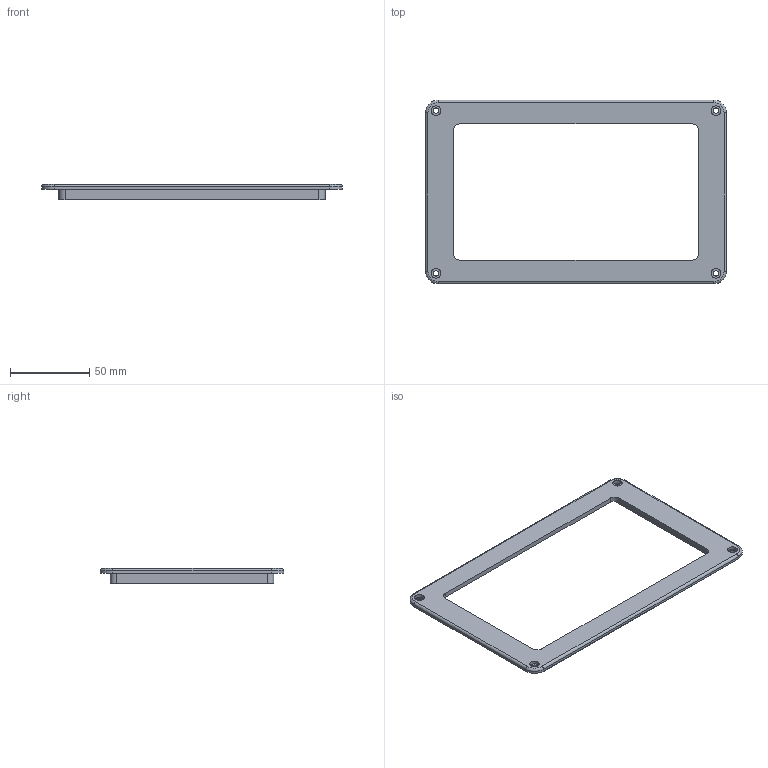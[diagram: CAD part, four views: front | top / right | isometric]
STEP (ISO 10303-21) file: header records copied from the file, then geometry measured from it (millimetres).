
FILE_DESCRIPTION(('Open CASCADE Model'),'2;1');
FILE_NAME('Open CASCADE Shape Model','2026-11-11T15:43:37',('Author'),( 'Open CASCADE'),'Open CASCADE STEP processor 8.0','build123d', 'Unknown');
FILE_SCHEMA(('AUTOMOTIVE_DESIGN { 1 0 10303 214 1 1 1 1 }'));
Length unit declared in the file: millimetre
Products named in the file (2): =>[0:1:1:2]; SOLID
Assembly tree (1 placements, depth 2):
  =>[0:1:1:2]
    SOLID
Bounding box: 190 x 116 x 9.5 mm (x, y, z)
Volume: 30275.4 mm3; surface area: 27219.5 mm2
Topology: 1 solids, 1 shells, 56 faces, 136 edges, 88 vertices
Faces by surface type: cylinder 28, plane 24, torus 4
Full cylindrical faces by diameter (mm): 3.4 x4, 6.1 x4
Entity records: 3500 total; most frequent: CARTESIAN_POINT 778, DIRECTION 500, ORIENTED_EDGE 272, PCURVE 272, DEFINITIONAL_REPRESENTATION 272, LINE 244, VECTOR 244, EDGE_CURVE 136
